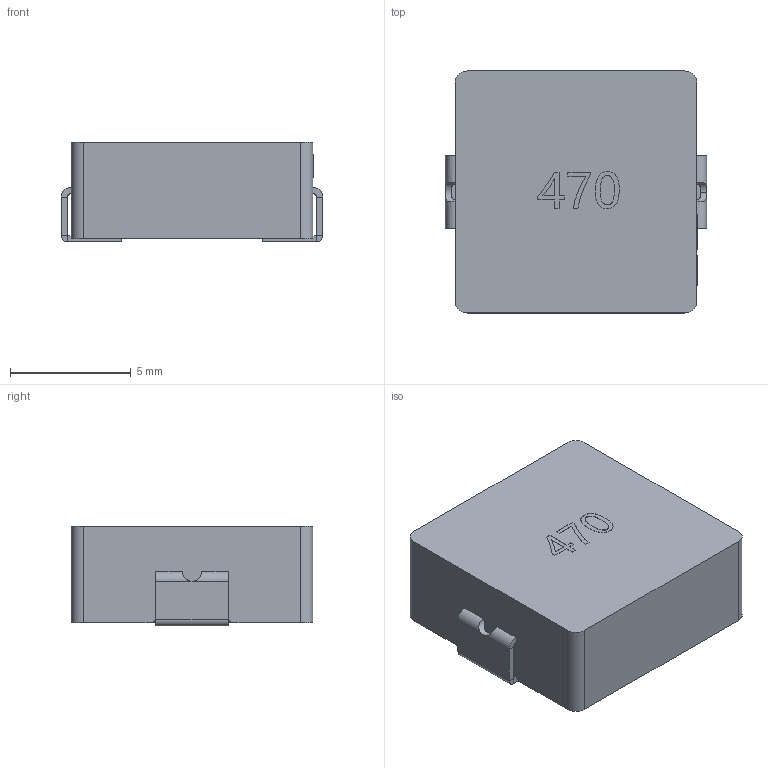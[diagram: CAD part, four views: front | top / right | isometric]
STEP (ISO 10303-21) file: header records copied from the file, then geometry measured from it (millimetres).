
FILE_DESCRIPTION (( 'STEP AP214' ), '1' );
FILE_NAME ('IND-SMD_L10.8-W10.0-H4.0.step', '2022-07-08T23:28:23', ( '' ), ( '' ), 'SwSTEP 2.0', 'SolidWorks 2020', '' );
FILE_SCHEMA (( 'AUTOMOTIVE_DESIGN' ));
Length unit declared in the file: millimetre
Products named in the file (1): IND-SMD_L10.8-W10.0-H4.0
Bounding box: 10.8 x 10 x 4.12 mm (x, y, z)
Volume: 403.8 mm3; surface area: 389.2 mm2
Topology: 1 solids, 1 shells, 374 faces, 1005 edges, 660 vertices
Faces by surface type: plane 233, bspline 124, cylinder 17
Entity records: 17679 total; most frequent: CARTESIAN_POINT 5036, ORIENTED_EDGE 2010, DIRECTION 1271, EDGE_CURVE 1005, LINE 721, VECTOR 721, VERTEX_POINT 660, EDGE_LOOP 409
